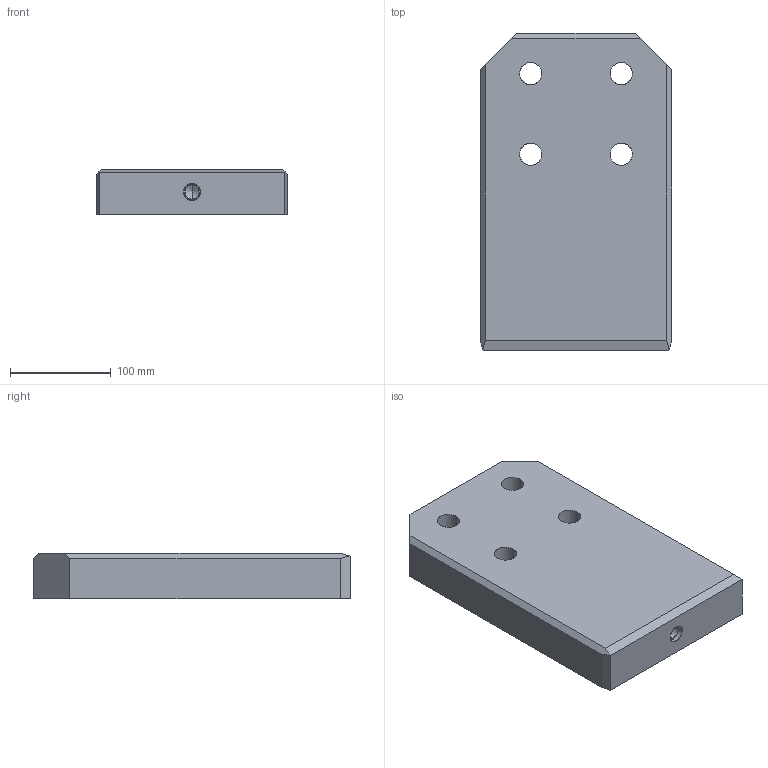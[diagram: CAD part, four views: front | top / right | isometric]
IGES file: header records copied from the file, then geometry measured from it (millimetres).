
Start section: START RECORD GO HERE.
Global section: file name: A927-190X315X45.igs; native system: DASSAULT SYSTEMES CATIA V5 R20 - www.3ds.com; preprocessor: CATIA Version 5 Release 20 ; author: Utente; organization: NB04-ASUS; date: 20200408.203233; units: millimetre
Bounding box: 190 x 315 x 45 mm (x, y, z)
Surface area: 172618 mm2 (no closed solid volume)
Topology: 0 solids, 0 shells, 52 faces, 242 edges, 240 vertices
Faces by surface type: revolution 32, extrusion 20
